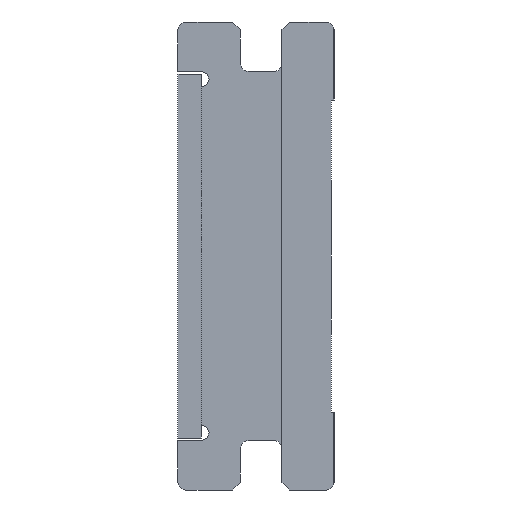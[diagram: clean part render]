
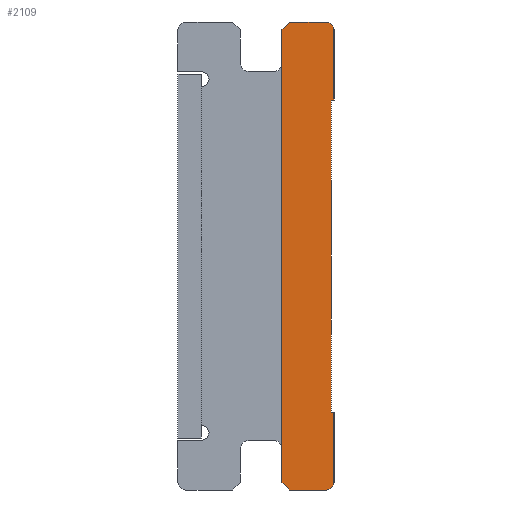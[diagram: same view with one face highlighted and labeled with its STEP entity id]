
A CAD part, left-side view. The second image highlights one B-rep face of the part: STEP entity #2109.
In plain terms, the highlighted planar face has unit normal (-1, 0, 0).
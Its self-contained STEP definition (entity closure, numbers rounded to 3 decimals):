
#12 = VECTOR ( 'NONE', #239, 1000. ) ;
#61 = VECTOR ( 'NONE', #1838, 1000. ) ;
#64 = CARTESIAN_POINT ( 'NONE',  ( 0., 0.1, -3. ) ) ;
#78 = VERTEX_POINT ( 'NONE', #741 ) ;
#82 = CARTESIAN_POINT ( 'NONE',  ( 0., 0., -15. ) ) ;
#135 = CARTESIAN_POINT ( 'NONE',  ( 0., 0., -17.7 ) ) ;
#190 = DIRECTION ( 'NONE',  ( 0., 0., -1. ) ) ;
#203 = EDGE_CURVE ( 'NONE', #1721, #2101, #2242, .T. ) ;
#220 = CARTESIAN_POINT ( 'NONE',  ( 0., 0., -0.3 ) ) ;
#226 = DIRECTION ( 'NONE',  ( 0., 0., -1. ) ) ;
#239 = DIRECTION ( 'NONE',  ( 0., 1., 0. ) ) ;
#240 = VECTOR ( 'NONE', #2452, 1000. ) ;
#265 = CARTESIAN_POINT ( 'NONE',  ( 0., 0., -0.3 ) ) ;
#268 = VECTOR ( 'NONE', #1093, 1000. ) ;
#282 = LINE ( 'NONE', #1023, #1307 ) ;
#344 = CARTESIAN_POINT ( 'NONE',  ( 0., 2., -17.7 ) ) ;
#345 = AXIS2_PLACEMENT_3D ( 'NONE', #2369, #1404, #481 ) ;
#407 = DIRECTION ( 'NONE',  ( 0., 0., 1. ) ) ;
#411 = VERTEX_POINT ( 'NONE', #220 ) ;
#415 = CARTESIAN_POINT ( 'NONE',  ( 0., 0.3, -18. ) ) ;
#435 = LINE ( 'NONE', #82, #2445 ) ;
#462 = ORIENTED_EDGE ( 'NONE', *, *, #1757, .F. ) ;
#480 = LINE ( 'NONE', #1226, #2055 ) ;
#481 = DIRECTION ( 'NONE',  ( 0., 1., 0. ) ) ;
#567 = CARTESIAN_POINT ( 'NONE',  ( 0., 0., -3. ) ) ;
#608 = LINE ( 'NONE', #415, #12 ) ;
#642 = CARTESIAN_POINT ( 'NONE',  ( 0., 1.7, 0. ) ) ;
#692 = ORIENTED_EDGE ( 'NONE', *, *, #2221, .F. ) ;
#741 = CARTESIAN_POINT ( 'NONE',  ( 0., 0., -15. ) ) ;
#754 = VERTEX_POINT ( 'NONE', #2241 ) ;
#780 = CARTESIAN_POINT ( 'NONE',  ( 0., 0.3, -0.3 ) ) ;
#798 = EDGE_CURVE ( 'NONE', #754, #78, #1467, .T. ) ;
#822 = VECTOR ( 'NONE', #1106, 1000. ) ;
#833 = DIRECTION ( 'NONE',  ( 0., -0.707, 0.707 ) ) ;
#847 = EDGE_CURVE ( 'NONE', #2172, #411, #2181, .T. ) ;
#922 = CARTESIAN_POINT ( 'NONE',  ( 0., 1.7, -18. ) ) ;
#1012 = CARTESIAN_POINT ( 'NONE',  ( 0., 1.7, -18. ) ) ;
#1020 = EDGE_LOOP ( 'NONE', ( #1717, #2032, #1787, #462, #1146, #1501, #1988, #1135, #692, #2005, #2371, #1028 ) ) ;
#1022 = VECTOR ( 'NONE', #226, 1000. ) ;
#1023 = CARTESIAN_POINT ( 'NONE',  ( 0., 1.7, 0. ) ) ;
#1028 = ORIENTED_EDGE ( 'NONE', *, *, #2373, .F. ) ;
#1093 = DIRECTION ( 'NONE',  ( 0., 0., 1. ) ) ;
#1103 = LINE ( 'NONE', #2251, #1766 ) ;
#1104 = CARTESIAN_POINT ( 'NONE',  ( 0., 0.1, -3. ) ) ;
#1106 = DIRECTION ( 'NONE',  ( 0., -1., 0. ) ) ;
#1135 = ORIENTED_EDGE ( 'NONE', *, *, #2253, .F. ) ;
#1146 = ORIENTED_EDGE ( 'NONE', *, *, #1312, .F. ) ;
#1154 = CARTESIAN_POINT ( 'NONE',  ( 0., 0.3, 0. ) ) ;
#1200 = FACE_OUTER_BOUND ( 'NONE', #1020, .T. ) ;
#1201 = VERTEX_POINT ( 'NONE', #1012 ) ;
#1226 = CARTESIAN_POINT ( 'NONE',  ( 0., 0., -3. ) ) ;
#1257 = AXIS2_PLACEMENT_3D ( 'NONE', #780, #1714, #407 ) ;
#1291 = DIRECTION ( 'NONE',  ( 0., -1., 0. ) ) ;
#1307 = VECTOR ( 'NONE', #833, 1000. ) ;
#1312 = EDGE_CURVE ( 'NONE', #2284, #1767, #2157, .T. ) ;
#1404 = DIRECTION ( 'NONE',  ( 1., 0., 0. ) ) ;
#1461 = LINE ( 'NONE', #922, #61 ) ;
#1467 = LINE ( 'NONE', #1664, #822 ) ;
#1488 = DIRECTION ( 'NONE',  ( 1., 0., 0. ) ) ;
#1501 = ORIENTED_EDGE ( 'NONE', *, *, #2400, .F. ) ;
#1571 = DIRECTION ( 'NONE',  ( 0., 0., -1. ) ) ;
#1583 = LINE ( 'NONE', #265, #1022 ) ;
#1657 = EDGE_CURVE ( 'NONE', #1201, #1721, #1461, .T. ) ;
#1664 = CARTESIAN_POINT ( 'NONE',  ( 0., 0., -15. ) ) ;
#1714 = DIRECTION ( 'NONE',  ( 1., 0., 0. ) ) ;
#1717 = ORIENTED_EDGE ( 'NONE', *, *, #2012, .F. ) ;
#1721 = VERTEX_POINT ( 'NONE', #2150 ) ;
#1747 = LINE ( 'NONE', #64, #240 ) ;
#1757 = EDGE_CURVE ( 'NONE', #1767, #1201, #608, .T. ) ;
#1758 = EDGE_CURVE ( 'NONE', #411, #1908, #1583, .T. ) ;
#1766 = VECTOR ( 'NONE', #1291, 1000. ) ;
#1767 = VERTEX_POINT ( 'NONE', #2126 ) ;
#1786 = CARTESIAN_POINT ( 'NONE',  ( 0., 2., -0.3 ) ) ;
#1787 = ORIENTED_EDGE ( 'NONE', *, *, #1657, .F. ) ;
#1798 = DIRECTION ( 'NONE',  ( 0., 1., 0. ) ) ;
#1838 = DIRECTION ( 'NONE',  ( 0., 0.707, 0.707 ) ) ;
#1908 = VERTEX_POINT ( 'NONE', #567 ) ;
#1928 = VERTEX_POINT ( 'NONE', #1104 ) ;
#1988 = ORIENTED_EDGE ( 'NONE', *, *, #798, .F. ) ;
#2005 = ORIENTED_EDGE ( 'NONE', *, *, #1758, .F. ) ;
#2012 = EDGE_CURVE ( 'NONE', #2101, #2189, #282, .T. ) ;
#2032 = ORIENTED_EDGE ( 'NONE', *, *, #203, .F. ) ;
#2055 = VECTOR ( 'NONE', #1798, 1000. ) ;
#2101 = VERTEX_POINT ( 'NONE', #1786 ) ;
#2109 = ADVANCED_FACE ( 'NONE', ( #1200 ), #2393, .F. ) ;
#2126 = CARTESIAN_POINT ( 'NONE',  ( 0., 0.3, -18. ) ) ;
#2150 = CARTESIAN_POINT ( 'NONE',  ( 0., 2., -17.7 ) ) ;
#2157 = CIRCLE ( 'NONE', #2370, 0.3 ) ;
#2172 = VERTEX_POINT ( 'NONE', #1154 ) ;
#2181 = CIRCLE ( 'NONE', #1257, 0.3 ) ;
#2189 = VERTEX_POINT ( 'NONE', #642 ) ;
#2221 = EDGE_CURVE ( 'NONE', #1908, #1928, #480, .T. ) ;
#2241 = CARTESIAN_POINT ( 'NONE',  ( 0., 0.1, -15. ) ) ;
#2242 = LINE ( 'NONE', #344, #268 ) ;
#2251 = CARTESIAN_POINT ( 'NONE',  ( 0., 0.3, 0. ) ) ;
#2253 = EDGE_CURVE ( 'NONE', #1928, #754, #1747, .T. ) ;
#2274 = CARTESIAN_POINT ( 'NONE',  ( 0., 0.3, -17.7 ) ) ;
#2284 = VERTEX_POINT ( 'NONE', #135 ) ;
#2369 = CARTESIAN_POINT ( 'NONE',  ( 0., 5.1, -15.8 ) ) ;
#2370 = AXIS2_PLACEMENT_3D ( 'NONE', #2274, #1488, #190 ) ;
#2371 = ORIENTED_EDGE ( 'NONE', *, *, #847, .F. ) ;
#2373 = EDGE_CURVE ( 'NONE', #2189, #2172, #1103, .T. ) ;
#2393 = PLANE ( 'NONE',  #345 ) ;
#2400 = EDGE_CURVE ( 'NONE', #78, #2284, #435, .T. ) ;
#2445 = VECTOR ( 'NONE', #1571, 1000. ) ;
#2452 = DIRECTION ( 'NONE',  ( 0., 0., -1. ) ) ;
